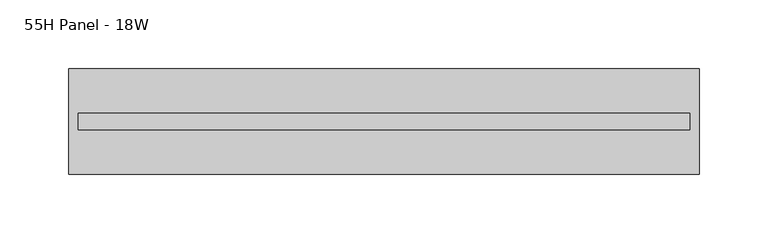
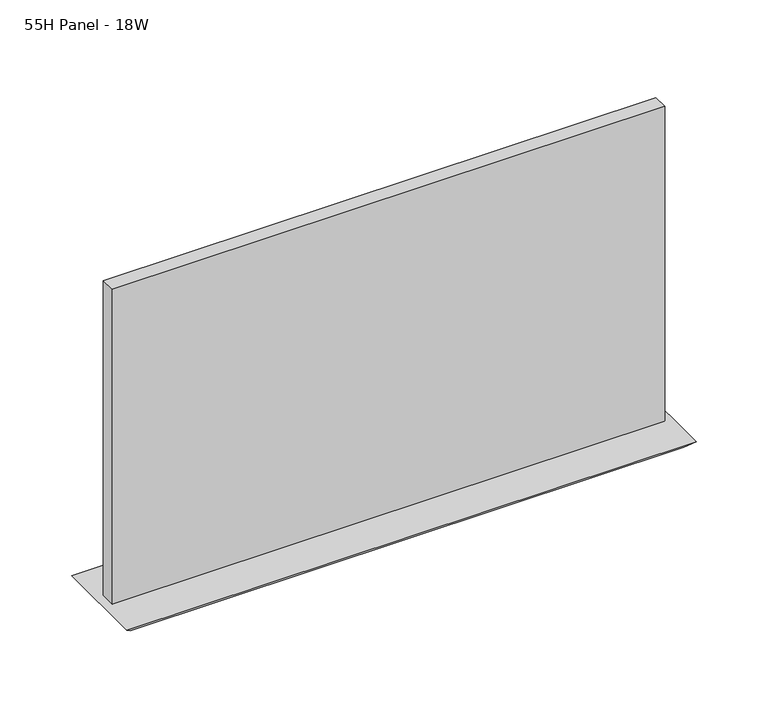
"""IFC4 building model written with IfcOpenShell, lengths in millimetres: furniture geometry, Steelcase - Montage - Tiles - 10H - Frameless Glass Stacker : 55H Panel - 18W."""

from ifc_helpers import new_model, si_unit, frame, origin, place, context, project, spatial, polyline, outline, extrude, faceted_brep, source, transform, mapped, element, save


def furniture_55h_panel_18w_e8c181aa(model_context):
    return source(origin(), model_context, "Body", "SolidModel", [
        faceted_brep([(457.2, -38.1000015, 1398.5875), (0.0, -38.1000015, 1398.5875), (6.35, -31.7500015, 1392.2375), (450.85, -31.7500015, 1392.2375), (6.35, 31.7500015, 1392.2375), (450.85, 31.7500015, 1392.2375), (0.0, 38.1000015, 1398.5875), (457.2, 38.1000015, 1398.5875)], [[[0, 1, 2, 3]], [[3, 2, 4, 5]], [[6, 7, 5, 4]], [[1, 0, 7, 6]], [[2, 1, 6, 4]], [[0, 3, 5, 7]]]),
        extrude(outline(polyline([(450.4181828, -5.9944001), (6.7818001, -5.9944001), (6.7818001, 5.9944008), (450.4181828, 5.9944008), (450.4181828, -5.9944001)])), frame((0.0, 0.0, 1398.5875), z_axis=(0.0, 0.0, 1.0), x_axis=(1.0, 0.0, 0.0)), (0.0, 0.0, 1.0), 267.7160475),
    ])


if __name__ == "__main__":
    model = new_model("IFC4")
    model_context = context("Model", 3, world=origin())
    ifc_project = project(units=[si_unit("LENGTHUNIT", "METRE", prefix="MILLI")], contexts=[model_context])
    site = spatial("IfcSite", under=ifc_project)
    building = spatial("IfcBuilding", under=site)
    placement = place(None, origin())
    furniture_55h_panel_18w_shape = furniture_55h_panel_18w_e8c181aa(model_context)
    element("IfcFurniture", 1, ObjectType="Steelcase - Montage - Tiles - 10H - Frameless Glass Stacker : 55H Panel - 18W", at=placement, inside=building, context=model_context, shape_type="MappedRepresentation", body=[
        mapped(furniture_55h_panel_18w_shape, transform((0.0, 0.0, 0.0), x_axis=(1.0, 0.0, 0.0), y_axis=(0.0, 1.0, 0.0), z_axis=(0.0, 0.0, 1.0))),
    ])
    save(model, "model.ifc")
